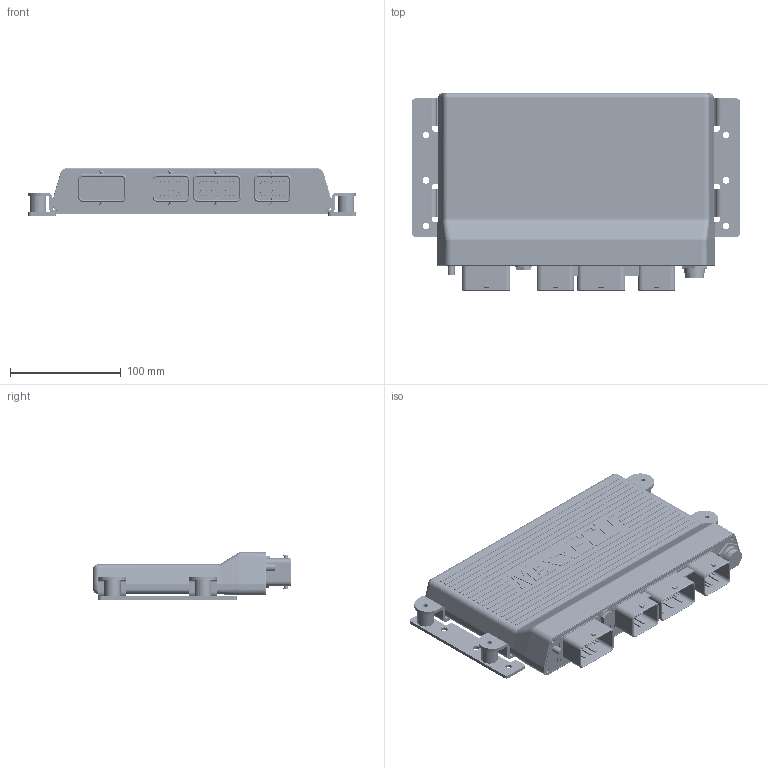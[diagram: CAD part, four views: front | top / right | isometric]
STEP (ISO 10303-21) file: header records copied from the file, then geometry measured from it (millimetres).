
FILE_DESCRIPTION(/* description */ (''),/* implementation_level */ '2;1');
FILE_NAME(/* name */ 'C:/Users/behr0/Desktop/MaxxECU Pro box v1.step',/* time_stamp */ '2019-02-26T20:56:36+01:00',/* author */ ('behr00@gmail.com'),/* organization */ (''),/* preprocessor_version */ 'ST-DEVELOPER v17.2',/* originating_system */ 'Autodesk Translation Framework v7.6.0.251',/* authorisation */ '');
FILE_SCHEMA (('AUTOMOTIVE_DESIGN { 1 0 10303 214 3 1 1 }'));
Products named in the file (1): MaxxECU Pro box
Bounding box: 296 x 179.02 x 43 mm (x, y, z)
Volume: 379015.3 mm3; surface area: 331747.1 mm2
Topology: 21 solids, 21 shells, 13382 faces, 36917 edges, 24145 vertices
Faces by surface type: plane 10213, cylinder 2668, torus 332, cone 76, bspline 57, sphere 36
Full cylindrical faces by diameter (mm): 1.2 x1, 2 x4, 2.5 x5, 2.78 x1, 3 x1, 3.2 x4, 3.39 x1, 3.4 x8, 3.5 x4, 4 x8, 4.1 x1, 5 x1, 6 x6, 6.25 x1, 6.4 x1, 9 x1, 10 x1, 15 x4, 16 x1, 16.9 x1, 18.9 x1, 24 x1
Entity records: 429875 total; most frequent: CARTESIAN_POINT 83270, ORIENTED_EDGE 73766, DIRECTION 69546, EDGE_CURVE 36883, LINE 29956, VECTOR 29956, VERTEX_POINT 24145, AXIS2_PLACEMENT_3D 19795
